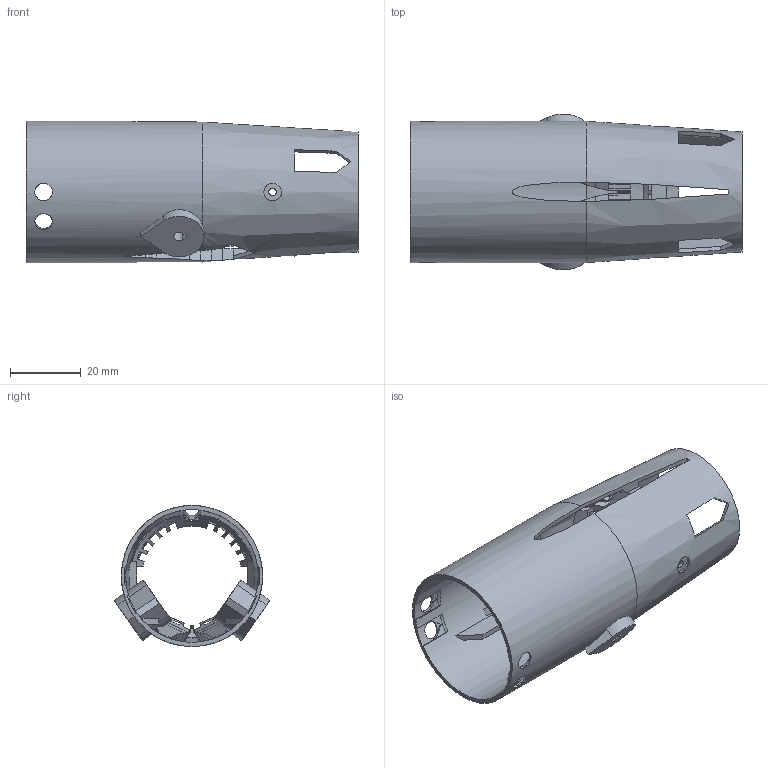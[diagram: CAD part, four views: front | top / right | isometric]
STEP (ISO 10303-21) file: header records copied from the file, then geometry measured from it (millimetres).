
FILE_DESCRIPTION(('SkyG Speed 90B - revision C6B-6 - 2026-10-08','F3-tail-module'),'2;1');
FILE_NAME('F3-tail-module_C6B-6','2026-10-08T12:30:59',('Author'),( 'Open CASCADE'),'Open CASCADE STEP processor 7.9','Open CASCADE 7.9' ,'Unknown');
FILE_SCHEMA(('AUTOMOTIVE_DESIGN { 1 0 10303 214 1 1 1 1 }'));
Length unit declared in the file: millimetre
Products named in the file (5): F3-tail-module C6B-6; Open CASCADE STEP translator 7.9 5.1; Open CASCADE STEP translator 7.9 5.1.1; Open CASCADE STEP translator 7.9 5.1.2; Open CASCADE STEP translator 7.9 5.1.3
Assembly tree (4 placements, depth 3):
  F3-tail-module C6B-6
    Open CASCADE STEP translator 7.9 5.1
      Open CASCADE STEP translator 7.9 5.1.1
      Open CASCADE STEP translator 7.9 5.1.2
      Open CASCADE STEP translator 7.9 5.1.3
Bounding box: 94 x 44.07 x 40 mm (x, y, z)
Volume: 16656.9 mm3; surface area: 24146.2 mm2
Topology: 1 solids, 3 shells, 448 faces, 1384 edges, 927 vertices
Faces by surface type: plane 309, cylinder 90, bspline 36, cone 13
Full cylindrical faces by diameter (mm): 2.2 x2, 37.6 x1, 40 x1
Entity records: 42694 total; most frequent: CARTESIAN_POINT 18275, DIRECTION 3613, ORIENTED_EDGE 2760, PCURVE 2760, DEFINITIONAL_REPRESENTATION 2760, LINE 1793, VECTOR 1793, B_SPLINE_CURVE_WITH_KNOTS 1682
